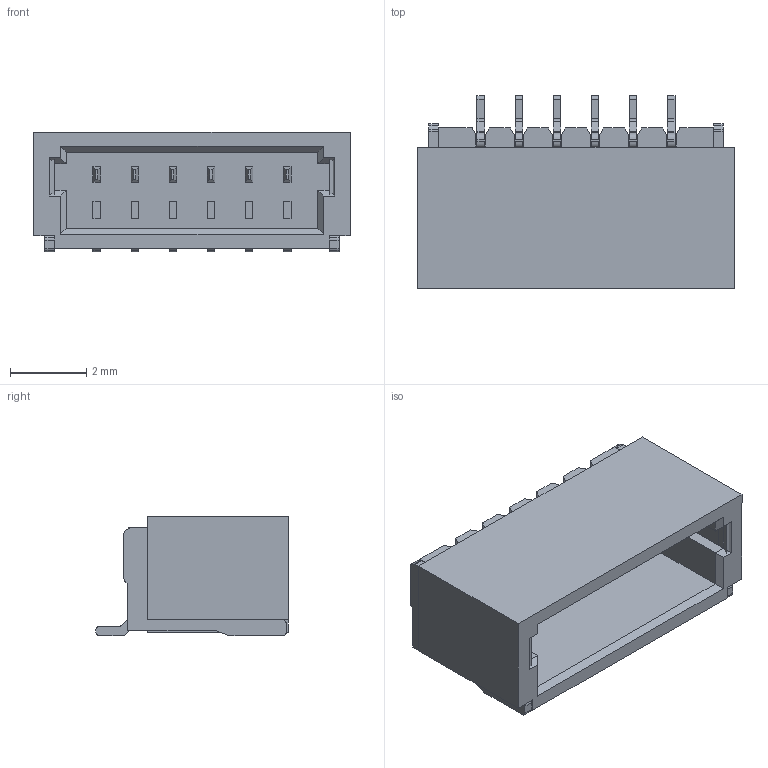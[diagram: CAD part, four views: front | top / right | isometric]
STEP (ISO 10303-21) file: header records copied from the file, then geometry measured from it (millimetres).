
FILE_DESCRIPTION (( 'STEP AP214' ), '1' );
FILE_NAME ('CONN-SMD_HCTL_HC-1.0-6PWT.step', '2022-08-01T07:41:08', ( '' ), ( '' ), 'SwSTEP 2.0', 'SolidWorks 2020', '' );
FILE_SCHEMA (( 'AUTOMOTIVE_DESIGN' ));
Length unit declared in the file: millimetre
Products named in the file (1): CONN-SMD_HCTL_HC-1.0-6PWT
Bounding box: 8.3 x 5.05 x 3.14 mm (x, y, z)
Volume: 62.2 mm3; surface area: 322.2 mm2
Topology: 16 solids, 16 shells, 605 faces, 1590 edges, 1048 vertices
Faces by surface type: plane 433, bspline 112, cylinder 60
Entity records: 26006 total; most frequent: CARTESIAN_POINT 4964, ORIENTED_EDGE 3180, DIRECTION 2427, EDGE_CURVE 1590, LINE 1199, VECTOR 1199, VERTEX_POINT 1048, EDGE_LOOP 648
